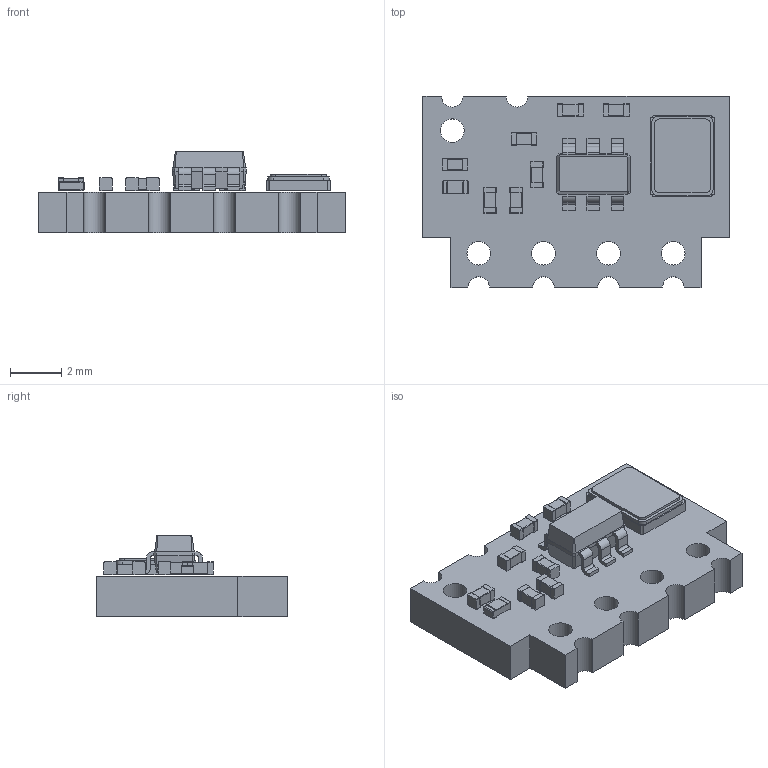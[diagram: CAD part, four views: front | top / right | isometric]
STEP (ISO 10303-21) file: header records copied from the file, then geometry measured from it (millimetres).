
FILE_DESCRIPTION(('KiCad electronic assembly'),'2;1');
FILE_NAME('E160-R4MS1.step','2024-08-07T16:43:29',('Pcbnew'),('Kicad'), 'Open CASCADE STEP processor 7.7','KiCad to STEP converter','Unknown' );
FILE_SCHEMA(('AUTOMOTIVE_DESIGN { 1 0 10303 214 1 1 1 1 }'));
Length unit declared in the file: millimetre
Products named in the file (12): E160-R4MS1 1; Crystal_SMD_SeikoEpson_TSX3225-4Pin_3.2x2.5mm; C_0402_1005Metric; L_0402_1005Metric; R_0402_1005Metric; SOT-23-6; SOT_23_6; _autosave-10738-V1.2_PCB
Assembly tree (16 placements, depth 3):
  E160-R4MS1 1
    Crystal_SMD_SeikoEpson_TSX3225-4Pin_3.2x2.5mm
      Crystal_SMD_SeikoEpson_TSX3225-4Pin_3.2x2.5mm
    C_0402_1005Metric  x5
      C_0402_1005Metric
    L_0402_1005Metric  x2
      L_0402_1005Metric
    R_0402_1005Metric
      R_0402_1005Metric
    SOT-23-6
      SOT_23_6
    _autosave-10738-V1.2_PCB
Bounding box: 12 x 7.5 x 3.2 mm (x, y, z)
Volume: 142.2 mm3; surface area: 323.1 mm2
Topology: 11 solids, 11 shells, 403 faces, 1043 edges, 678 vertices
Faces by surface type: plane 232, cylinder 141, bspline 30
Full cylindrical faces by diameter (mm): 0.93 x5
Entity records: 9850 total; most frequent: CARTESIAN_POINT 1523, ORIENTED_EDGE 1366, DIRECTION 1313, EDGE_CURVE 683, LINE 489, VECTOR 489, VERTEX_POINT 438, AXIS2_PLACEMENT_3D 412
